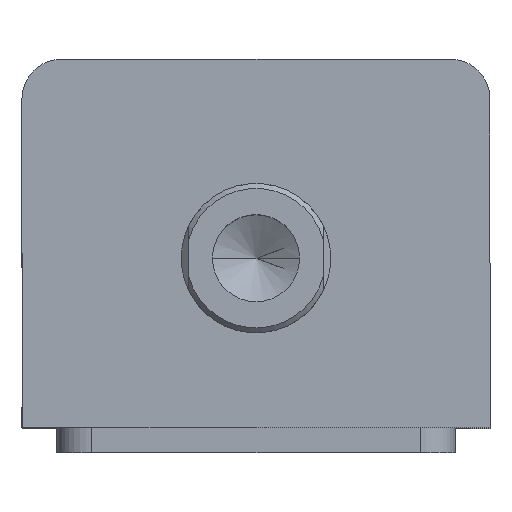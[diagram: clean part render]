
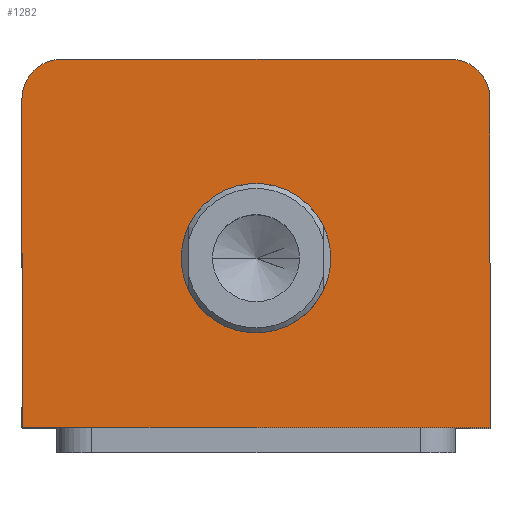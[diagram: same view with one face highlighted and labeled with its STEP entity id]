
A CAD part, top view. The second image highlights one B-rep face of the part: STEP entity #1282.
In plain terms, the highlighted planar face has unit normal (0, 0, 1).
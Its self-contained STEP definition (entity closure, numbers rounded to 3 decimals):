
#13 = CARTESIAN_POINT ( 'NONE',  ( 0., 0., 120. ) ) ;
#14 = PLANE ( 'NONE',  #939 ) ;
#19 = DIRECTION ( 'NONE',  ( 0., 0., 1. ) ) ;
#20 = DIRECTION ( 'NONE',  ( 1., 0., 0. ) ) ;
#71 = CARTESIAN_POINT ( 'NONE',  ( 39., 29., 120. ) ) ;
#72 = DIRECTION ( 'NONE',  ( 0., 0., 1. ) ) ;
#73 = DIRECTION ( 'NONE',  ( 1., 0., 0. ) ) ;
#106 = CARTESIAN_POINT ( 'NONE',  ( -47., 37., 120. ) ) ;
#107 = DIRECTION ( 'NONE',  ( -1., 0., 0. ) ) ;
#170 = CARTESIAN_POINT ( 'NONE',  ( 47., 37., 120. ) ) ;
#171 = DIRECTION ( 'NONE',  ( 0., 1., 0. ) ) ;
#205 = CARTESIAN_POINT ( 'NONE',  ( -47., -37., 120. ) ) ;
#206 = DIRECTION ( 'NONE',  ( 1., 0., 0. ) ) ;
#221 = CARTESIAN_POINT ( 'NONE',  ( -47., 37., 120. ) ) ;
#222 = DIRECTION ( 'NONE',  ( 0., -1., 0. ) ) ;
#251 = CARTESIAN_POINT ( 'NONE',  ( -15., -3., 120. ) ) ;
#252 = CARTESIAN_POINT ( 'NONE',  ( 15., -3., 120. ) ) ;
#282 = CARTESIAN_POINT ( 'NONE',  ( 47., -37., 120. ) ) ;
#285 = CARTESIAN_POINT ( 'NONE',  ( 47., 29., 120. ) ) ;
#324 = CARTESIAN_POINT ( 'NONE',  ( 39., 37., 120. ) ) ;
#334 = CARTESIAN_POINT ( 'NONE',  ( -47., 29., 120. ) ) ;
#335 = CARTESIAN_POINT ( 'NONE',  ( -47., -37., 120. ) ) ;
#338 = CARTESIAN_POINT ( 'NONE',  ( -39., 37., 120. ) ) ;
#564 = FACE_BOUND ( 'NONE', #2278, .T. ) ;
#570 = FACE_OUTER_BOUND ( 'NONE', #2291, .T. ) ;
#597 = CIRCLE ( 'NONE', #952, 8. ) ;
#614 = LINE ( 'NONE', #106, #617 ) ;
#617 = VECTOR ( 'NONE', #107, 1000. ) ;
#656 = LINE ( 'NONE', #170, #659 ) ;
#659 = VECTOR ( 'NONE', #171, 1000. ) ;
#688 = LINE ( 'NONE', #205, #691 ) ;
#691 = VECTOR ( 'NONE', #206, 1000. ) ;
#704 = LINE ( 'NONE', #221, #707 ) ;
#707 = VECTOR ( 'NONE', #222, 1000. ) ;
#939 = AXIS2_PLACEMENT_3D ( 'NONE', #13, #19, #20 ) ;
#952 = AXIS2_PLACEMENT_3D ( 'NONE', #71, #72, #73 ) ;
#1078 = EDGE_CURVE ( 'NONE', #1668, #1667, #1881, .T. ) ;
#1174 = EDGE_CURVE ( 'NONE', #1966, #1961, #1875, .T. ) ;
#1180 = EDGE_CURVE ( 'NONE', #1667, #1668, #1865, .T. ) ;
#1282 = ADVANCED_FACE ( 'NONE', ( #564, #570 ), #14, .T. ) ;
#1322 = EDGE_CURVE ( 'NONE', #1703, #1950, #597, .T. ) ;
#1335 = EDGE_CURVE ( 'NONE', #1950, #1966, #614, .T. ) ;
#1361 = EDGE_CURVE ( 'NONE', #1698, #1703, #656, .T. ) ;
#1377 = AXIS2_PLACEMENT_3D ( 'NONE', #2806, #2973, #2839 ) ;
#1422 = AXIS2_PLACEMENT_3D ( 'NONE', #2642, #2643, #2638 ) ;
#1424 = AXIS2_PLACEMENT_3D ( 'NONE', #2659, #2762, #2622 ) ;
#1517 = EDGE_CURVE ( 'NONE', #1963, #1698, #688, .T. ) ;
#1525 = EDGE_CURVE ( 'NONE', #1961, #1963, #704, .T. ) ;
#1667 = VERTEX_POINT ( 'NONE', #251 ) ;
#1668 = VERTEX_POINT ( 'NONE', #252 ) ;
#1698 = VERTEX_POINT ( 'NONE', #282 ) ;
#1703 = VERTEX_POINT ( 'NONE', #285 ) ;
#1865 = CIRCLE ( 'NONE', #1424, 15. ) ;
#1875 = CIRCLE ( 'NONE', #1422, 8. ) ;
#1881 = CIRCLE ( 'NONE', #1377, 15. ) ;
#1950 = VERTEX_POINT ( 'NONE', #324 ) ;
#1961 = VERTEX_POINT ( 'NONE', #334 ) ;
#1963 = VERTEX_POINT ( 'NONE', #335 ) ;
#1966 = VERTEX_POINT ( 'NONE', #338 ) ;
#2101 = ORIENTED_EDGE ( 'NONE', *, *, #1525, .T. ) ;
#2103 = ORIENTED_EDGE ( 'NONE', *, *, #1078, .F. ) ;
#2106 = ORIENTED_EDGE ( 'NONE', *, *, #1174, .T. ) ;
#2107 = ORIENTED_EDGE ( 'NONE', *, *, #1517, .T. ) ;
#2108 = ORIENTED_EDGE ( 'NONE', *, *, #1335, .T. ) ;
#2120 = ORIENTED_EDGE ( 'NONE', *, *, #1180, .F. ) ;
#2130 = ORIENTED_EDGE ( 'NONE', *, *, #1322, .T. ) ;
#2133 = ORIENTED_EDGE ( 'NONE', *, *, #1361, .T. ) ;
#2278 = EDGE_LOOP ( 'NONE', ( #2103, #2120 ) ) ;
#2291 = EDGE_LOOP ( 'NONE', ( #2108, #2106, #2101, #2107, #2133, #2130 ) ) ;
#2622 = DIRECTION ( 'NONE',  ( 1., 0., 0. ) ) ;
#2638 = DIRECTION ( 'NONE',  ( 1., 0., 0. ) ) ;
#2642 = CARTESIAN_POINT ( 'NONE',  ( -39., 29., 120. ) ) ;
#2643 = DIRECTION ( 'NONE',  ( 0., 0., 1. ) ) ;
#2659 = CARTESIAN_POINT ( 'NONE',  ( 0., -3., 120. ) ) ;
#2762 = DIRECTION ( 'NONE',  ( 0., 0., 1. ) ) ;
#2806 = CARTESIAN_POINT ( 'NONE',  ( 0., -3., 120. ) ) ;
#2839 = DIRECTION ( 'NONE',  ( 1., 0., 0. ) ) ;
#2973 = DIRECTION ( 'NONE',  ( 0., 0., 1. ) ) ;
